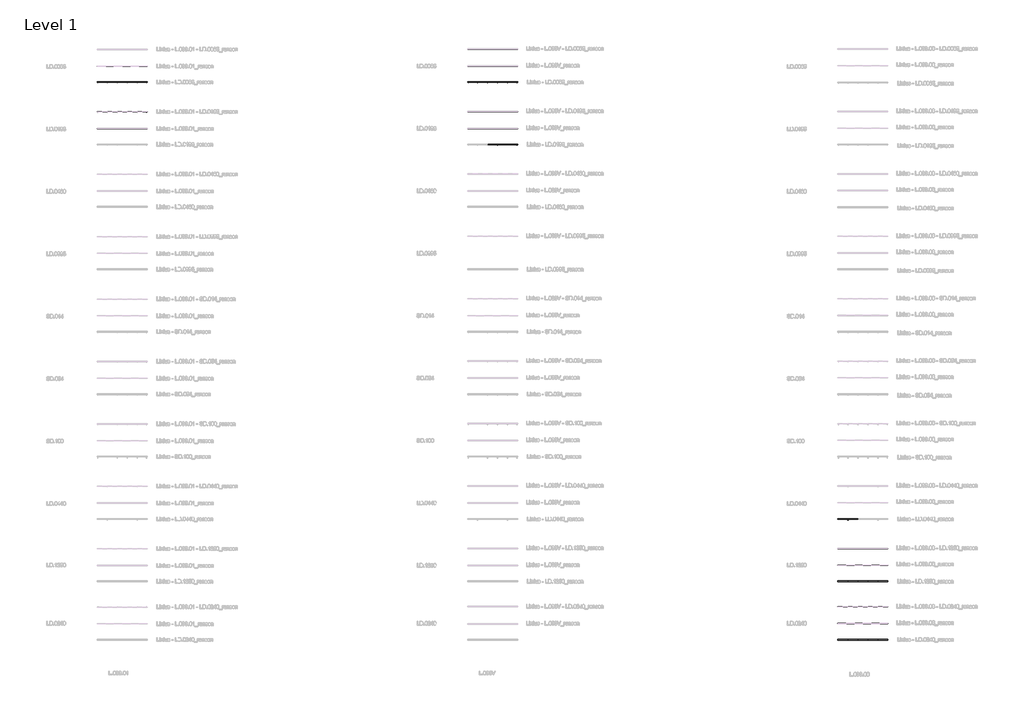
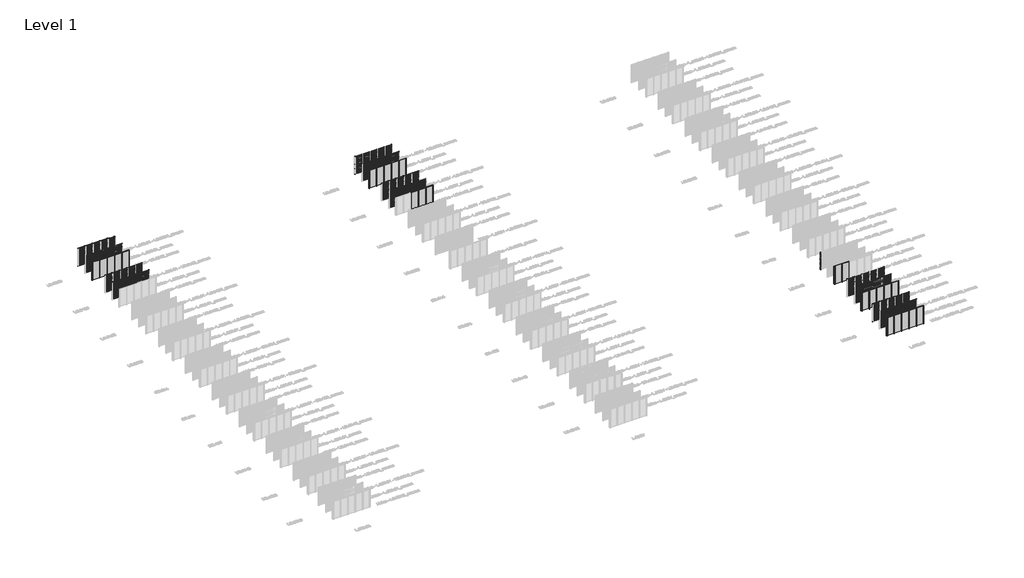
# One storey, part 4 of 507: 66 members, 62 plates.
"""IFC4 building model written with IfcOpenShell, lengths in millimetres."""

from ifc_helpers import new_model, si_unit, origin, origin_with_axes, place, context, project, spatial, polyline, outline, extrude, transform, mapped, element, save
from components import rectangular_mullion_42be434b, rectangular_mullion_e1f482b2, rectangular_mullion_2c867e25, rectangular_mullion_7803f5c4, rectangular_mullion_82152e2f, rectangular_mullion_ffdfeaf4, rectangular_mullion_e0a14876, rectangular_mullion_146f339b, rectangular_mullion_aa1047c5, rectangular_mullion_5b30f3fd, rectangular_mullion_d2d38772, rectangular_mullion_efb80f74, rectangular_mullion_aaa1fb1b, rectangular_mullion_ea9d012c, empty_system_panel_empty_aabbdda4

model = new_model("IFC4")

# Units and contexts
model_context = context("Model", 3, world=origin())
ifc_project = project(units=[si_unit("LENGTHUNIT", "METRE", prefix="MILLI")], contexts=[model_context])

# Site, building, storey
site = spatial("IfcSite", under=ifc_project)
building = spatial("IfcBuilding", under=site)
storey = spatial("IfcBuildingStorey", under=building, Name="Level 1", Elevation=0.0)

# Members
placement = place(None, origin())
rectangular_mullion_shape = rectangular_mullion_42be434b(model_context)
element("IfcMember", 1, ObjectType="Rectangular Mullion : LD.0065_renson", at=placement, inside=storey, context=model_context, shape_type="MappedRepresentation", body=[
    mapped(rectangular_mullion_shape, transform((49766.6208095, 73981.0540136, 0.0), x_axis=(-1.0, 0.0, 0.0), y_axis=(0.0, 1.0, 0.0), z_axis=(0.0, 0.0, -1.0))),
])
element("IfcMember", 2, ObjectType="Rectangular Mullion : LD.0065_renson", at=placement, inside=storey, context=model_context, shape_type="MappedRepresentation", body=[
    mapped(rectangular_mullion_shape, transform((48566.6208096, 73981.0540136, 0.0), x_axis=(-1.0, 0.0, 0.0), y_axis=(0.0, 1.0, 0.0), z_axis=(0.0, 0.0, -1.0))),
])
element("IfcMember", 3, ObjectType="Rectangular Mullion : LD.0065_renson", at=placement, inside=storey, context=model_context, shape_type="MappedRepresentation", body=[
    mapped(rectangular_mullion_shape, transform((47366.6208097, 73981.0540136, 0.0), x_axis=(-1.0, 0.0, 0.0), y_axis=(0.0, 1.0, 0.0), z_axis=(0.0, 0.0, -1.0))),
])
element("IfcMember", 4, ObjectType="Rectangular Mullion : LD.0065_renson", at=placement, inside=storey, context=model_context, shape_type="MappedRepresentation", body=[
    mapped(rectangular_mullion_shape, transform((46166.6208099, 73981.0540136, 0.0), x_axis=(-1.0, 0.0, 0.0), y_axis=(0.0, 1.0, 0.0), z_axis=(0.0, 0.0, -1.0))),
])
element("IfcMember", 5, ObjectType="Rectangular Mullion : LD.0065_renson", at=placement, inside=storey, context=model_context, shape_type="MappedRepresentation", body=[
    mapped(rectangular_mullion_shape, transform((49766.6208095, 69981.0540136, 0.0), x_axis=(-1.0, 0.0, 0.0), y_axis=(0.0, 1.0, 0.0), z_axis=(0.0, 0.0, -1.0))),
])
element("IfcMember", 6, ObjectType="Rectangular Mullion : LD.0065_renson", at=placement, inside=storey, context=model_context, shape_type="MappedRepresentation", body=[
    mapped(rectangular_mullion_shape, transform((48566.6208096, 69981.0540136, 0.0), x_axis=(-1.0, 0.0, 0.0), y_axis=(0.0, 1.0, 0.0), z_axis=(0.0, 0.0, -1.0))),
])
element("IfcMember", 7, ObjectType="Rectangular Mullion : LD.0065_renson", at=placement, inside=storey, context=model_context, shape_type="MappedRepresentation", body=[
    mapped(rectangular_mullion_shape, transform((47366.6208097, 69981.0540136, 0.0), x_axis=(-1.0, 0.0, 0.0), y_axis=(0.0, 1.0, 0.0), z_axis=(0.0, 0.0, -1.0))),
])
element("IfcMember", 8, ObjectType="Rectangular Mullion : LD.0065_renson", at=placement, inside=storey, context=model_context, shape_type="MappedRepresentation", body=[
    mapped(rectangular_mullion_shape, transform((46166.6208099, 69981.0540136, 0.0), x_axis=(-1.0, 0.0, 0.0), y_axis=(0.0, 1.0, 0.0), z_axis=(0.0, 0.0, -1.0))),
])
element("IfcMember", 9, ObjectType="Rectangular Mullion : LD.0065_renson", at=placement, inside=storey, context=model_context, shape_type="MappedRepresentation", body=[
    mapped(rectangular_mullion_shape, transform((93066.6208096, 69981.0540136, 0.0), x_axis=(-1.0, 0.0, 0.0), y_axis=(0.0, 1.0, 0.0), z_axis=(0.0, 0.0, -1.0))),
])
element("IfcMember", 10, ObjectType="Rectangular Mullion : LD.0065_renson", at=placement, inside=storey, context=model_context, shape_type="MappedRepresentation", body=[
    mapped(rectangular_mullion_shape, transform((91866.6208097, 69981.0540136, 0.0), x_axis=(-1.0, 0.0, 0.0), y_axis=(0.0, 1.0, 0.0), z_axis=(0.0, 0.0, -1.0))),
])
element("IfcMember", 11, ObjectType="Rectangular Mullion : LD.0065_renson", at=placement, inside=storey, context=model_context, shape_type="MappedRepresentation", body=[
    mapped(rectangular_mullion_shape, transform((90666.6208099, 69981.0540136, 0.0), x_axis=(-1.0, 0.0, 0.0), y_axis=(0.0, 1.0, 0.0), z_axis=(0.0, 0.0, -1.0))),
])
element("IfcMember", 12, ObjectType="Rectangular Mullion : LD.0065_renson", at=placement, inside=storey, context=model_context, shape_type="MappedRepresentation", body=[
    mapped(rectangular_mullion_shape, transform((94266.6208095, 69981.0540136, 0.0), x_axis=(-1.0, 0.0, 0.0), y_axis=(0.0, 1.0, 0.0), z_axis=(0.0, 0.0, -1.0))),
])
element("IfcMember", 13, ObjectType="Rectangular Mullion : LD.0065_renson", at=placement, inside=storey, context=model_context, shape_type="MappedRepresentation", body=[
    mapped(rectangular_mullion_shape, transform((94266.6208095, 74025.0540136, 0.0), x_axis=(-1.0, 0.0, 0.0), y_axis=(0.0, 1.0, 0.0), z_axis=(0.0, 0.0, -1.0))),
])
element("IfcMember", 14, ObjectType="Rectangular Mullion : LD.0065_renson", at=placement, inside=storey, context=model_context, shape_type="MappedRepresentation", body=[
    mapped(rectangular_mullion_shape, transform((93066.6208096, 74025.0540136, 0.0), x_axis=(-1.0, 0.0, 0.0), y_axis=(0.0, 1.0, 0.0), z_axis=(0.0, 0.0, -1.0))),
])
element("IfcMember", 15, ObjectType="Rectangular Mullion : LD.0065_renson", at=placement, inside=storey, context=model_context, shape_type="MappedRepresentation", body=[
    mapped(rectangular_mullion_shape, transform((91866.6208097, 74025.0540136, 0.0), x_axis=(-1.0, 0.0, 0.0), y_axis=(0.0, 1.0, 0.0), z_axis=(0.0, 0.0, -1.0))),
])
element("IfcMember", 16, ObjectType="Rectangular Mullion : LD.0065_renson", at=placement, inside=storey, context=model_context, shape_type="MappedRepresentation", body=[
    mapped(rectangular_mullion_shape, transform((90666.6208099, 74025.0540136, 0.0), x_axis=(-1.0, 0.0, 0.0), y_axis=(0.0, 1.0, 0.0), z_axis=(0.0, 0.0, -1.0))),
])
rectangular_mullion_2_shape = rectangular_mullion_e1f482b2(model_context)
element("IfcMember", 17, ObjectType="Rectangular Mullion : LD.0195_renson", at=placement, inside=storey, context=model_context, shape_type="MappedRepresentation", body=[
    mapped(rectangular_mullion_2_shape, transform((49766.6208095, 66481.0540136, 0.0), x_axis=(-1.0, 0.0, 0.0), y_axis=(0.0, 1.0, 0.0), z_axis=(0.0, 0.0, -1.0))),
])
element("IfcMember", 18, ObjectType="Rectangular Mullion : LD.0195_renson", at=placement, inside=storey, context=model_context, shape_type="MappedRepresentation", body=[
    mapped(rectangular_mullion_2_shape, transform((48566.6208096, 66481.0540136, 0.0), x_axis=(-1.0, 0.0, 0.0), y_axis=(0.0, 1.0, 0.0), z_axis=(0.0, 0.0, -1.0))),
])
element("IfcMember", 19, ObjectType="Rectangular Mullion : LD.0195_renson", at=placement, inside=storey, context=model_context, shape_type="MappedRepresentation", body=[
    mapped(rectangular_mullion_2_shape, transform((47366.6208097, 66481.0540136, 0.0), x_axis=(-1.0, 0.0, 0.0), y_axis=(0.0, 1.0, 0.0), z_axis=(0.0, 0.0, -1.0))),
])
element("IfcMember", 20, ObjectType="Rectangular Mullion : LD.0195_renson", at=placement, inside=storey, context=model_context, shape_type="MappedRepresentation", body=[
    mapped(rectangular_mullion_2_shape, transform((46166.6208099, 66481.0540136, 0.0), x_axis=(-1.0, 0.0, 0.0), y_axis=(0.0, 1.0, 0.0), z_axis=(0.0, 0.0, -1.0))),
])
element("IfcMember", 21, ObjectType="Rectangular Mullion : LD.0195_renson", at=placement, inside=storey, context=model_context, shape_type="MappedRepresentation", body=[
    mapped(rectangular_mullion_2_shape, transform((93066.6208096, 62481.0540136, 0.0), x_axis=(-1.0, 0.0, 0.0), y_axis=(0.0, 1.0, 0.0), z_axis=(0.0, 0.0, -1.0))),
])
element("IfcMember", 22, ObjectType="Rectangular Mullion : LD.0195_renson", at=placement, inside=storey, context=model_context, shape_type="MappedRepresentation", body=[
    mapped(rectangular_mullion_2_shape, transform((94266.6208095, 62481.0540136, 0.0), x_axis=(-1.0, 0.0, 0.0), y_axis=(0.0, 1.0, 0.0), z_axis=(0.0, 0.0, -1.0))),
])
element("IfcMember", 23, ObjectType="Rectangular Mullion : LD.0195_renson", at=placement, inside=storey, context=model_context, shape_type="MappedRepresentation", body=[
    mapped(rectangular_mullion_2_shape, transform((94266.6208095, 66525.0540136, 0.0), x_axis=(-1.0, 0.0, 0.0), y_axis=(0.0, 1.0, 0.0), z_axis=(0.0, 0.0, -1.0))),
])
element("IfcMember", 24, ObjectType="Rectangular Mullion : LD.0195_renson", at=placement, inside=storey, context=model_context, shape_type="MappedRepresentation", body=[
    mapped(rectangular_mullion_2_shape, transform((93066.6208096, 66525.0540136, 0.0), x_axis=(-1.0, 0.0, 0.0), y_axis=(0.0, 1.0, 0.0), z_axis=(0.0, 0.0, -1.0))),
])
element("IfcMember", 25, ObjectType="Rectangular Mullion : LD.0195_renson", at=placement, inside=storey, context=model_context, shape_type="MappedRepresentation", body=[
    mapped(rectangular_mullion_2_shape, transform((91866.6208097, 66525.0540136, 0.0), x_axis=(-1.0, 0.0, 0.0), y_axis=(0.0, 1.0, 0.0), z_axis=(0.0, 0.0, -1.0))),
])
element("IfcMember", 26, ObjectType="Rectangular Mullion : LD.0195_renson", at=placement, inside=storey, context=model_context, shape_type="MappedRepresentation", body=[
    mapped(rectangular_mullion_2_shape, transform((90666.6208099, 66525.0540136, 0.0), x_axis=(-1.0, 0.0, 0.0), y_axis=(0.0, 1.0, 0.0), z_axis=(0.0, 0.0, -1.0))),
])
rectangular_mullion_3_shape = rectangular_mullion_2c867e25(model_context)
element("IfcMember", 27, ObjectType="Rectangular Mullion : LD.0440_renson", at=placement, inside=storey, context=model_context, shape_type="MappedRepresentation", body=[
    mapped(rectangular_mullion_3_shape, transform((135166.6208099, 17481.0540136, 0.0), x_axis=(-1.0, 0.0, 0.0), y_axis=(0.0, 1.0, 0.0), z_axis=(0.0, 0.0, -1.0))),
])
rectangular_mullion_4_shape = rectangular_mullion_7803f5c4(model_context)
element("IfcMember", 28, ObjectType="Rectangular Mullion : LD.1250_renson", at=placement, inside=storey, context=model_context, shape_type="MappedRepresentation", body=[
    mapped(rectangular_mullion_4_shape, transform((136366.6208097, 9981.0540136, 0.0), x_axis=(-1.0, 0.0, 0.0), y_axis=(0.0, 1.0, 0.0), z_axis=(0.0, 0.0, -1.0))),
])
element("IfcMember", 29, ObjectType="Rectangular Mullion : LD.1250_renson", at=placement, inside=storey, context=model_context, shape_type="MappedRepresentation", body=[
    mapped(rectangular_mullion_4_shape, transform((135166.6208099, 9981.0540136, 0.0), x_axis=(-1.0, 0.0, 0.0), y_axis=(0.0, 1.0, 0.0), z_axis=(0.0, 0.0, -1.0))),
])
element("IfcMember", 30, ObjectType="Rectangular Mullion : LD.1250_renson", at=placement, inside=storey, context=model_context, shape_type="MappedRepresentation", body=[
    mapped(rectangular_mullion_4_shape, transform((137566.6208096, 9981.0540136, 0.0), x_axis=(-1.0, 0.0, 0.0), y_axis=(0.0, 1.0, 0.0), z_axis=(0.0, 0.0, -1.0))),
])
element("IfcMember", 31, ObjectType="Rectangular Mullion : LD.1250_renson", at=placement, inside=storey, context=model_context, shape_type="MappedRepresentation", body=[
    mapped(rectangular_mullion_4_shape, transform((138766.6208095, 9981.0540136, 0.0), x_axis=(-1.0, 0.0, 0.0), y_axis=(0.0, 1.0, 0.0), z_axis=(0.0, 0.0, -1.0))),
])
element("IfcMember", 32, ObjectType="Rectangular Mullion : LD.1250_renson", at=placement, inside=storey, context=model_context, shape_type="MappedRepresentation", body=[
    mapped(rectangular_mullion_4_shape, transform((138766.6208095, 14024.0540136, 0.0), x_axis=(-1.0, 0.0, 0.0), y_axis=(0.0, 1.0, 0.0), z_axis=(0.0, 0.0, -1.0))),
])
element("IfcMember", 33, ObjectType="Rectangular Mullion : LD.1250_renson", at=placement, inside=storey, context=model_context, shape_type="MappedRepresentation", body=[
    mapped(rectangular_mullion_4_shape, transform((137566.6208096, 14024.0540136, 0.0), x_axis=(-1.0, 0.0, 0.0), y_axis=(0.0, 1.0, 0.0), z_axis=(0.0, 0.0, -1.0))),
])
element("IfcMember", 34, ObjectType="Rectangular Mullion : LD.1250_renson", at=placement, inside=storey, context=model_context, shape_type="MappedRepresentation", body=[
    mapped(rectangular_mullion_4_shape, transform((136366.6208097, 14024.0540136, 0.0), x_axis=(-1.0, 0.0, 0.0), y_axis=(0.0, 1.0, 0.0), z_axis=(0.0, 0.0, -1.0))),
])
element("IfcMember", 35, ObjectType="Rectangular Mullion : LD.1250_renson", at=placement, inside=storey, context=model_context, shape_type="MappedRepresentation", body=[
    mapped(rectangular_mullion_4_shape, transform((135166.6208099, 14024.0540136, 0.0), x_axis=(-1.0, 0.0, 0.0), y_axis=(0.0, 1.0, 0.0), z_axis=(0.0, 0.0, -1.0))),
])
rectangular_mullion_5_shape = rectangular_mullion_82152e2f(model_context)
element("IfcMember", 36, ObjectType="Rectangular Mullion : LD.0240_renson", at=placement, inside=storey, context=model_context, shape_type="MappedRepresentation", body=[
    mapped(rectangular_mullion_5_shape, transform((136366.6208097, 2985.0270068, 0.0), x_axis=(-1.0, 0.0, 0.0), y_axis=(0.0, 1.0, 0.0), z_axis=(0.0, 0.0, -1.0))),
])
element("IfcMember", 37, ObjectType="Rectangular Mullion : LD.0240_renson", at=placement, inside=storey, context=model_context, shape_type="MappedRepresentation", body=[
    mapped(rectangular_mullion_5_shape, transform((135166.6208099, 2985.0270068, 0.0), x_axis=(-1.0, 0.0, 0.0), y_axis=(0.0, 1.0, 0.0), z_axis=(0.0, 0.0, -1.0))),
])
element("IfcMember", 38, ObjectType="Rectangular Mullion : LD.0240_renson", at=placement, inside=storey, context=model_context, shape_type="MappedRepresentation", body=[
    mapped(rectangular_mullion_5_shape, transform((137566.6208096, 2985.0270068, 0.0), x_axis=(-1.0, 0.0, 0.0), y_axis=(0.0, 1.0, 0.0), z_axis=(0.0, 0.0, -1.0))),
])
element("IfcMember", 39, ObjectType="Rectangular Mullion : LD.0240_renson", at=placement, inside=storey, context=model_context, shape_type="MappedRepresentation", body=[
    mapped(rectangular_mullion_5_shape, transform((138766.6208095, 2985.0270068, 0.0), x_axis=(-1.0, 0.0, 0.0), y_axis=(0.0, 1.0, 0.0), z_axis=(0.0, 0.0, -1.0))),
])
element("IfcMember", 40, ObjectType="Rectangular Mullion : LD.0240_renson", at=placement, inside=storey, context=model_context, shape_type="MappedRepresentation", body=[
    mapped(rectangular_mullion_5_shape, transform((138766.6208095, 7028.0270068, 0.0), x_axis=(-1.0, 0.0, 0.0), y_axis=(0.0, 1.0, 0.0), z_axis=(0.0, 0.0, -1.0))),
])
element("IfcMember", 41, ObjectType="Rectangular Mullion : LD.0240_renson", at=placement, inside=storey, context=model_context, shape_type="MappedRepresentation", body=[
    mapped(rectangular_mullion_5_shape, transform((137566.6208096, 7028.0270068, 0.0), x_axis=(-1.0, 0.0, 0.0), y_axis=(0.0, 1.0, 0.0), z_axis=(0.0, 0.0, -1.0))),
])
element("IfcMember", 42, ObjectType="Rectangular Mullion : LD.0240_renson", at=placement, inside=storey, context=model_context, shape_type="MappedRepresentation", body=[
    mapped(rectangular_mullion_5_shape, transform((136366.6208097, 7028.0270068, 0.0), x_axis=(-1.0, 0.0, 0.0), y_axis=(0.0, 1.0, 0.0), z_axis=(0.0, 0.0, -1.0))),
])
element("IfcMember", 43, ObjectType="Rectangular Mullion : LD.0240_renson", at=placement, inside=storey, context=model_context, shape_type="MappedRepresentation", body=[
    mapped(rectangular_mullion_5_shape, transform((135166.6208099, 7028.0270068, 0.0), x_axis=(-1.0, 0.0, 0.0), y_axis=(0.0, 1.0, 0.0), z_axis=(0.0, 0.0, -1.0))),
])
rectangular_mullion_6_shape = rectangular_mullion_ffdfeaf4(model_context)
element("IfcMember", 44, ObjectType="Rectangular Mullion : LD.0065 - left_renson", at=placement, inside=storey, context=model_context, shape_type="MappedRepresentation", body=[
    mapped(rectangular_mullion_6_shape, transform((44966.6208097, 73981.0540136, 0.0), x_axis=(-1.0, 0.0, 0.0), y_axis=(0.0, 1.0, 0.0), z_axis=(0.0, 0.0, -1.0))),
])
element("IfcMember", 45, ObjectType="Rectangular Mullion : LD.0065 - left_renson", at=placement, inside=storey, context=model_context, shape_type="MappedRepresentation", body=[
    mapped(rectangular_mullion_6_shape, transform((44966.6208097, 69981.0540136, 0.0), x_axis=(-1.0, 0.0, 0.0), y_axis=(0.0, 1.0, 0.0), z_axis=(0.0, 0.0, -1.0))),
])
element("IfcMember", 46, ObjectType="Rectangular Mullion : LD.0065 - left_renson", at=placement, inside=storey, context=model_context, shape_type="MappedRepresentation", body=[
    mapped(rectangular_mullion_6_shape, transform((89466.6208097, 69981.0540136, 0.0), x_axis=(-1.0, 0.0, 0.0), y_axis=(0.0, 1.0, 0.0), z_axis=(0.0, 0.0, -1.0))),
])
element("IfcMember", 47, ObjectType="Rectangular Mullion : LD.0065 - left_renson", at=placement, inside=storey, context=model_context, shape_type="MappedRepresentation", body=[
    mapped(rectangular_mullion_6_shape, transform((89466.6208097, 74025.0540136, 0.0), x_axis=(-1.0, 0.0, 0.0), y_axis=(0.0, 1.0, 0.0), z_axis=(0.0, 0.0, -1.0))),
])
rectangular_mullion_7_shape = rectangular_mullion_e0a14876(model_context)
element("IfcMember", 48, ObjectType="Rectangular Mullion : LD.0065 - right_renson", at=placement, inside=storey, context=model_context, shape_type="MappedRepresentation", body=[
    mapped(rectangular_mullion_7_shape, transform((50966.6208097, 73981.0540136, 3000.0), x_axis=(1.0, 0.0, 0.0), y_axis=(0.0, 1.0, 0.0), z_axis=(0.0, 0.0, 1.0))),
])
element("IfcMember", 49, ObjectType="Rectangular Mullion : LD.0065 - right_renson", at=placement, inside=storey, context=model_context, shape_type="MappedRepresentation", body=[
    mapped(rectangular_mullion_7_shape, transform((50966.6208097, 69981.0540136, 3000.0), x_axis=(1.0, 0.0, 0.0), y_axis=(0.0, 1.0, 0.0), z_axis=(0.0, 0.0, 1.0))),
])
element("IfcMember", 50, ObjectType="Rectangular Mullion : LD.0065 - right_renson", at=placement, inside=storey, context=model_context, shape_type="MappedRepresentation", body=[
    mapped(rectangular_mullion_7_shape, transform((95466.6208097, 69981.0540136, 3000.0), x_axis=(1.0, 0.0, 0.0), y_axis=(0.0, 1.0, 0.0), z_axis=(0.0, 0.0, 1.0))),
])
element("IfcMember", 51, ObjectType="Rectangular Mullion : LD.0065 - right_renson", at=placement, inside=storey, context=model_context, shape_type="MappedRepresentation", body=[
    mapped(rectangular_mullion_7_shape, transform((95466.6208097, 74025.0540136, 3000.0), x_axis=(1.0, 0.0, 0.0), y_axis=(0.0, 1.0, 0.0), z_axis=(0.0, 0.0, 1.0))),
])
rectangular_mullion_8_shape = rectangular_mullion_146f339b(model_context)
element("IfcMember", 52, ObjectType="Rectangular Mullion : LD.0195 - left_renson", at=placement, inside=storey, context=model_context, shape_type="MappedRepresentation", body=[
    mapped(rectangular_mullion_8_shape, transform((44966.6208097, 66481.0540136, 0.0), x_axis=(-1.0, 0.0, 0.0), y_axis=(0.0, 1.0, 0.0), z_axis=(0.0, 0.0, -1.0))),
])
element("IfcMember", 53, ObjectType="Rectangular Mullion : LD.0195 - left_renson", at=placement, inside=storey, context=model_context, shape_type="MappedRepresentation", body=[
    mapped(rectangular_mullion_8_shape, transform((89466.6208097, 66525.0540136, 0.0), x_axis=(-1.0, 0.0, 0.0), y_axis=(0.0, 1.0, 0.0), z_axis=(0.0, 0.0, -1.0))),
])
rectangular_mullion_9_shape = rectangular_mullion_aa1047c5(model_context)
element("IfcMember", 54, ObjectType="Rectangular Mullion : LD.0195 - right_renson", at=placement, inside=storey, context=model_context, shape_type="MappedRepresentation", body=[
    mapped(rectangular_mullion_9_shape, transform((50966.6208097, 66481.0540136, 3000.0), x_axis=(1.0, 0.0, 0.0), y_axis=(0.0, 1.0, 0.0), z_axis=(0.0, 0.0, 1.0))),
])
element("IfcMember", 55, ObjectType="Rectangular Mullion : LD.0195 - right_renson", at=placement, inside=storey, context=model_context, shape_type="MappedRepresentation", body=[
    mapped(rectangular_mullion_9_shape, transform((95466.6208097, 62481.0540136, 3000.0), x_axis=(1.0, 0.0, 0.0), y_axis=(0.0, 1.0, 0.0), z_axis=(0.0, 0.0, 1.0))),
])
element("IfcMember", 56, ObjectType="Rectangular Mullion : LD.0195 - right_renson", at=placement, inside=storey, context=model_context, shape_type="MappedRepresentation", body=[
    mapped(rectangular_mullion_9_shape, transform((95466.6208097, 66525.0540136, 3000.0), x_axis=(1.0, 0.0, 0.0), y_axis=(0.0, 1.0, 0.0), z_axis=(0.0, 0.0, 1.0))),
])
rectangular_mullion_10_shape = rectangular_mullion_5b30f3fd(model_context)
element("IfcMember", 57, ObjectType="Rectangular Mullion : LD.0440 - left_renson", at=placement, inside=storey, context=model_context, shape_type="MappedRepresentation", body=[
    mapped(rectangular_mullion_10_shape, transform((133966.6208097, 17481.0540136, 0.0), x_axis=(-1.0, 0.0, 0.0), y_axis=(0.0, 1.0, 0.0), z_axis=(0.0, 0.0, -1.0))),
])
element("IfcMember", 58, ObjectType="Rectangular Mullion : LD.0440 - left_renson", at=placement, inside=storey, context=model_context, shape_type="MappedRepresentation", body=[
    mapped(rectangular_mullion_10_shape, transform((133966.6208097, 21524.0540136, 0.0), x_axis=(-1.0, 0.0, 0.0), y_axis=(0.0, 1.0, 0.0), z_axis=(0.0, 0.0, -1.0))),
])
rectangular_mullion_11_shape = rectangular_mullion_d2d38772(model_context)
element("IfcMember", 59, ObjectType="Rectangular Mullion : LD.1250 - left_renson", at=placement, inside=storey, context=model_context, shape_type="MappedRepresentation", body=[
    mapped(rectangular_mullion_11_shape, transform((133966.6208097, 9981.0540136, 0.0), x_axis=(-1.0, 0.0, 0.0), y_axis=(0.0, 1.0, 0.0), z_axis=(0.0, 0.0, -1.0))),
])
element("IfcMember", 60, ObjectType="Rectangular Mullion : LD.1250 - left_renson", at=placement, inside=storey, context=model_context, shape_type="MappedRepresentation", body=[
    mapped(rectangular_mullion_11_shape, transform((133966.6208097, 14024.0540136, 0.0), x_axis=(-1.0, 0.0, 0.0), y_axis=(0.0, 1.0, 0.0), z_axis=(0.0, 0.0, -1.0))),
])
rectangular_mullion_12_shape = rectangular_mullion_efb80f74(model_context)
element("IfcMember", 61, ObjectType="Rectangular Mullion : LD.1250 - right_renson", at=placement, inside=storey, context=model_context, shape_type="MappedRepresentation", body=[
    mapped(rectangular_mullion_12_shape, transform((139966.6208097, 9981.0540136, 3000.0), x_axis=(1.0, 0.0, 0.0), y_axis=(0.0, 1.0, 0.0), z_axis=(0.0, 0.0, 1.0))),
])
element("IfcMember", 62, ObjectType="Rectangular Mullion : LD.1250 - right_renson", at=placement, inside=storey, context=model_context, shape_type="MappedRepresentation", body=[
    mapped(rectangular_mullion_12_shape, transform((139966.6208097, 14024.0540136, 3000.0), x_axis=(1.0, 0.0, 0.0), y_axis=(0.0, 1.0, 0.0), z_axis=(0.0, 0.0, 1.0))),
])
rectangular_mullion_13_shape = rectangular_mullion_aaa1fb1b(model_context)
element("IfcMember", 63, ObjectType="Rectangular Mullion : LD.0240 - left_renson", at=placement, inside=storey, context=model_context, shape_type="MappedRepresentation", body=[
    mapped(rectangular_mullion_13_shape, transform((133966.6208097, 2985.0270068, 0.0), x_axis=(-1.0, 0.0, 0.0), y_axis=(0.0, 1.0, 0.0), z_axis=(0.0, 0.0, -1.0))),
])
element("IfcMember", 64, ObjectType="Rectangular Mullion : LD.0240 - left_renson", at=placement, inside=storey, context=model_context, shape_type="MappedRepresentation", body=[
    mapped(rectangular_mullion_13_shape, transform((133966.6208097, 7028.0270068, 0.0), x_axis=(-1.0, 0.0, 0.0), y_axis=(0.0, 1.0, 0.0), z_axis=(0.0, 0.0, -1.0))),
])
rectangular_mullion_14_shape = rectangular_mullion_ea9d012c(model_context)
element("IfcMember", 65, ObjectType="Rectangular Mullion : LD.0240 - right_renson", at=placement, inside=storey, context=model_context, shape_type="MappedRepresentation", body=[
    mapped(rectangular_mullion_14_shape, transform((139966.6208097, 2985.0270068, 3000.0), x_axis=(1.0, 0.0, 0.0), y_axis=(0.0, 1.0, 0.0), z_axis=(0.0, 0.0, 1.0))),
])
element("IfcMember", 66, ObjectType="Rectangular Mullion : LD.0240 - right_renson", at=placement, inside=storey, context=model_context, shape_type="MappedRepresentation", body=[
    mapped(rectangular_mullion_14_shape, transform((139966.6208097, 7028.0270068, 3000.0), x_axis=(1.0, 0.0, 0.0), y_axis=(0.0, 1.0, 0.0), z_axis=(0.0, 0.0, 1.0))),
])

# Plates
element("IfcPlate", 67, ObjectType="Linius - L.033.01_renson", at=placement, inside=storey, context=model_context, shape_type="SweptSolid", body=[
    extrude(outline(polyline([(44966.6208097, 73982.0540136), (46166.6208099, 73982.0540136), (46166.6208099, 73980.0540136), (44966.6208097, 73980.0540136), (44966.6208097, 73982.0540136)])), origin_with_axes(), (0.0, 0.0, 1.0), 3000.0),
])
element("IfcPlate", 68, ObjectType="Linius - L.033.01_renson", at=placement, inside=storey, context=model_context, shape_type="SweptSolid", body=[
    extrude(outline(polyline([(46166.6208099, 73982.0540136), (47366.6208097, 73982.0540136), (47366.6208097, 73980.0540136), (46166.6208099, 73980.0540136), (46166.6208099, 73982.0540136)])), origin_with_axes(), (0.0, 0.0, 1.0), 3000.0),
])
element("IfcPlate", 69, ObjectType="Linius - L.033.01_renson", at=placement, inside=storey, context=model_context, shape_type="SweptSolid", body=[
    extrude(outline(polyline([(47366.6208097, 73982.0540136), (48566.6208096, 73982.0540136), (48566.6208096, 73980.0540136), (47366.6208097, 73980.0540136), (47366.6208097, 73982.0540136)])), origin_with_axes(), (0.0, 0.0, 1.0), 3000.0),
])
element("IfcPlate", 70, ObjectType="Linius - L.033.01_renson", at=placement, inside=storey, context=model_context, shape_type="SweptSolid", body=[
    extrude(outline(polyline([(48566.6208096, 73982.0540136), (49766.6208095, 73982.0540136), (49766.6208095, 73980.0540136), (48566.6208096, 73980.0540136), (48566.6208096, 73982.0540136)])), origin_with_axes(), (0.0, 0.0, 1.0), 3000.0),
])
element("IfcPlate", 71, ObjectType="Linius - L.033.01_renson", at=placement, inside=storey, context=model_context, shape_type="SweptSolid", body=[
    extrude(outline(polyline([(44966.6208097, 71982.0540136), (50966.6208097, 71982.0540136), (50966.6208097, 71980.0540136), (44966.6208097, 71980.0540136), (44966.6208097, 71982.0540136)])), origin_with_axes(), (0.0, 0.0, 1.0), 3000.0),
])
element("IfcPlate", 72, ObjectType="Linius - L.033.01_renson", at=placement, inside=storey, context=model_context, shape_type="SweptSolid", body=[
    extrude(outline(polyline([(44966.6208097, 66482.0540136), (46166.6208099, 66482.0540136), (46166.6208099, 66480.0540136), (44966.6208097, 66480.0540136), (44966.6208097, 66482.0540136)])), origin_with_axes(), (0.0, 0.0, 1.0), 3000.0),
])
element("IfcPlate", 73, ObjectType="Linius - L.033.01_renson", at=placement, inside=storey, context=model_context, shape_type="SweptSolid", body=[
    extrude(outline(polyline([(46166.6208099, 66482.0540136), (47366.6208097, 66482.0540136), (47366.6208097, 66480.0540136), (46166.6208099, 66480.0540136), (46166.6208099, 66482.0540136)])), origin_with_axes(), (0.0, 0.0, 1.0), 3000.0),
])
element("IfcPlate", 74, ObjectType="Linius - L.033.01_renson", at=placement, inside=storey, context=model_context, shape_type="SweptSolid", body=[
    extrude(outline(polyline([(47366.6208097, 66482.0540136), (48566.6208096, 66482.0540136), (48566.6208096, 66480.0540136), (47366.6208097, 66480.0540136), (47366.6208097, 66482.0540136)])), origin_with_axes(), (0.0, 0.0, 1.0), 3000.0),
])
element("IfcPlate", 75, ObjectType="Linius - L.033.01_renson", at=placement, inside=storey, context=model_context, shape_type="SweptSolid", body=[
    extrude(outline(polyline([(48566.6208096, 66482.0540136), (49766.6208095, 66482.0540136), (49766.6208095, 66480.0540136), (48566.6208096, 66480.0540136), (48566.6208096, 66482.0540136)])), origin_with_axes(), (0.0, 0.0, 1.0), 3000.0),
])
element("IfcPlate", 76, ObjectType="Linius - L.033.01_renson", at=placement, inside=storey, context=model_context, shape_type="SweptSolid", body=[
    extrude(outline(polyline([(44966.6208097, 64482.0540136), (50966.6208097, 64482.0540136), (50966.6208097, 64480.0540136), (44966.6208097, 64480.0540136), (44966.6208097, 64482.0540136)])), origin_with_axes(), (0.0, 0.0, 1.0), 3000.0),
])
element("IfcPlate", 77, ObjectType="Linius - L.033.01_renson", at=placement, inside=storey, context=model_context, shape_type="SweptSolid", body=[
    extrude(outline(polyline([(49766.6208095, 73982.0540136), (50966.6208097, 73982.0540136), (50966.6208097, 73980.0540136), (49766.6208095, 73980.0540136), (49766.6208095, 73982.0540136)])), origin_with_axes(), (0.0, 0.0, 1.0), 3000.0),
])
element("IfcPlate", 78, ObjectType="Linius - L.033.01_renson", at=placement, inside=storey, context=model_context, shape_type="SweptSolid", body=[
    extrude(outline(polyline([(49766.6208095, 66482.0540136), (50966.6208097, 66482.0540136), (50966.6208097, 66480.0540136), (49766.6208095, 66480.0540136), (49766.6208095, 66482.0540136)])), origin_with_axes(), (0.0, 0.0, 1.0), 3000.0),
])
element("IfcPlate", 79, ObjectType="Linius - L.033.08_renson", at=placement, inside=storey, context=model_context, shape_type="SweptSolid", body=[
    extrude(outline(polyline([(133966.6208097, 4988.0270068), (139966.6208097, 4988.0270068), (139966.6208097, 4986.0270068), (133966.6208097, 4986.0270068), (133966.6208097, 4988.0270068)])), origin_with_axes(), (0.0, 0.0, 1.0), 3000.0),
])
element("IfcPlate", 80, ObjectType="Linius - L.033V_renson", at=placement, inside=storey, context=model_context, shape_type="SweptSolid", body=[
    extrude(outline(polyline([(89466.6208097, 74026.0540136), (90666.6208099, 74026.0540136), (90666.6208099, 74024.0540136), (89466.6208097, 74024.0540136), (89466.6208097, 74026.0540136)])), origin_with_axes(), (0.0, 0.0, 1.0), 3000.0),
])
element("IfcPlate", 81, ObjectType="Linius - L.033V_renson", at=placement, inside=storey, context=model_context, shape_type="SweptSolid", body=[
    extrude(outline(polyline([(90666.6208099, 74026.0540136), (91866.6208097, 74026.0540136), (91866.6208097, 74024.0540136), (90666.6208099, 74024.0540136), (90666.6208099, 74026.0540136)])), origin_with_axes(), (0.0, 0.0, 1.0), 3000.0),
])
element("IfcPlate", 82, ObjectType="Linius - L.033V_renson", at=placement, inside=storey, context=model_context, shape_type="SweptSolid", body=[
    extrude(outline(polyline([(91866.6208097, 74026.0540136), (93066.6208096, 74026.0540136), (93066.6208096, 74024.0540136), (91866.6208097, 74024.0540136), (91866.6208097, 74026.0540136)])), origin_with_axes(), (0.0, 0.0, 1.0), 3000.0),
])
element("IfcPlate", 83, ObjectType="Linius - L.033V_renson", at=placement, inside=storey, context=model_context, shape_type="SweptSolid", body=[
    extrude(outline(polyline([(93066.6208096, 74026.0540136), (94266.6208095, 74026.0540136), (94266.6208095, 74024.0540136), (93066.6208096, 74024.0540136), (93066.6208096, 74026.0540136)])), origin_with_axes(), (0.0, 0.0, 1.0), 3000.0),
])
element("IfcPlate", 84, ObjectType="Linius - L.033V_renson", at=placement, inside=storey, context=model_context, shape_type="SweptSolid", body=[
    extrude(outline(polyline([(89466.6208097, 66526.0540136), (90666.6208099, 66526.0540136), (90666.6208099, 66524.0540136), (89466.6208097, 66524.0540136), (89466.6208097, 66526.0540136)])), origin_with_axes(), (0.0, 0.0, 1.0), 3000.0),
])
element("IfcPlate", 85, ObjectType="Linius - L.033V_renson", at=placement, inside=storey, context=model_context, shape_type="SweptSolid", body=[
    extrude(outline(polyline([(90666.6208099, 66526.0540136), (91866.6208097, 66526.0540136), (91866.6208097, 66524.0540136), (90666.6208099, 66524.0540136), (90666.6208099, 66526.0540136)])), origin_with_axes(), (0.0, 0.0, 1.0), 3000.0),
])
element("IfcPlate", 86, ObjectType="Linius - L.033V_renson", at=placement, inside=storey, context=model_context, shape_type="SweptSolid", body=[
    extrude(outline(polyline([(91866.6208097, 66526.0540136), (93066.6208096, 66526.0540136), (93066.6208096, 66524.0540136), (91866.6208097, 66524.0540136), (91866.6208097, 66526.0540136)])), origin_with_axes(), (0.0, 0.0, 1.0), 3000.0),
])
element("IfcPlate", 87, ObjectType="Linius - L.033V_renson", at=placement, inside=storey, context=model_context, shape_type="SweptSolid", body=[
    extrude(outline(polyline([(93066.6208096, 66526.0540136), (94266.6208095, 66526.0540136), (94266.6208095, 66524.0540136), (93066.6208096, 66524.0540136), (93066.6208096, 66526.0540136)])), origin_with_axes(), (0.0, 0.0, 1.0), 3000.0),
])
element("IfcPlate", 88, ObjectType="Linius - L.033V_renson", at=placement, inside=storey, context=model_context, shape_type="SweptSolid", body=[
    extrude(outline(polyline([(94266.6208095, 74026.0540136), (95466.6208097, 74026.0540136), (95466.6208097, 74024.0540136), (94266.6208095, 74024.0540136), (94266.6208095, 74026.0540136)])), origin_with_axes(), (0.0, 0.0, 1.0), 3000.0),
])
element("IfcPlate", 89, ObjectType="Linius - L.033V_renson", at=placement, inside=storey, context=model_context, shape_type="SweptSolid", body=[
    extrude(outline(polyline([(94266.6208095, 66526.0540136), (95466.6208097, 66526.0540136), (95466.6208097, 66524.0540136), (94266.6208095, 66524.0540136), (94266.6208095, 66526.0540136)])), origin_with_axes(), (0.0, 0.0, 1.0), 3000.0),
])
element("IfcPlate", 90, ObjectType="Linius - L.033V_renson", at=placement, inside=storey, context=model_context, shape_type="SweptSolid", body=[
    extrude(outline(polyline([(89466.6208097, 64483.0540136), (95466.6208097, 64483.0540136), (95466.6208097, 64481.0540136), (89466.6208097, 64481.0540136), (89466.6208097, 64483.0540136)])), origin_with_axes(), (0.0, 0.0, 1.0), 3000.0),
])
element("IfcPlate", 91, ObjectType="Linius - L.033V_renson", at=placement, inside=storey, context=model_context, shape_type="SweptSolid", body=[
    extrude(outline(polyline([(89466.6208097, 71983.0540136), (95466.6208097, 71983.0540136), (95466.6208097, 71981.0540136), (89466.6208097, 71981.0540136), (89466.6208097, 71983.0540136)])), origin_with_axes(), (0.0, 0.0, 1.0), 3000.0),
])
element("IfcPlate", 92, ObjectType="Linius - L.033.08_renson", at=placement, inside=storey, context=model_context, shape_type="SweptSolid", body=[
    extrude(outline(polyline([(133966.6208097, 14025.0540136), (135166.6208099, 14025.0540136), (135166.6208099, 14023.0540136), (133966.6208097, 14023.0540136), (133966.6208097, 14025.0540136)])), origin_with_axes(), (0.0, 0.0, 1.0), 3000.0),
])
element("IfcPlate", 93, ObjectType="Linius - L.033.08_renson", at=placement, inside=storey, context=model_context, shape_type="SweptSolid", body=[
    extrude(outline(polyline([(135166.6208099, 14025.0540136), (136366.6208097, 14025.0540136), (136366.6208097, 14023.0540136), (135166.6208099, 14023.0540136), (135166.6208099, 14025.0540136)])), origin_with_axes(), (0.0, 0.0, 1.0), 3000.0),
])
element("IfcPlate", 94, ObjectType="Linius - L.033.08_renson", at=placement, inside=storey, context=model_context, shape_type="SweptSolid", body=[
    extrude(outline(polyline([(136366.6208097, 14025.0540136), (137566.6208096, 14025.0540136), (137566.6208096, 14023.0540136), (136366.6208097, 14023.0540136), (136366.6208097, 14025.0540136)])), origin_with_axes(), (0.0, 0.0, 1.0), 3000.0),
])
element("IfcPlate", 95, ObjectType="Linius - L.033.08_renson", at=placement, inside=storey, context=model_context, shape_type="SweptSolid", body=[
    extrude(outline(polyline([(137566.6208096, 14025.0540136), (138766.6208095, 14025.0540136), (138766.6208095, 14023.0540136), (137566.6208096, 14023.0540136), (137566.6208096, 14025.0540136)])), origin_with_axes(), (0.0, 0.0, 1.0), 3000.0),
])
element("IfcPlate", 96, ObjectType="Linius - L.033.08_renson", at=placement, inside=storey, context=model_context, shape_type="SweptSolid", body=[
    extrude(outline(polyline([(133966.6208097, 12025.0540136), (139966.6208097, 12025.0540136), (139966.6208097, 12023.0540136), (133966.6208097, 12023.0540136), (133966.6208097, 12025.0540136)])), origin_with_axes(), (0.0, 0.0, 1.0), 3000.0),
])
element("IfcPlate", 97, ObjectType="Linius - L.033.08_renson", at=placement, inside=storey, context=model_context, shape_type="SweptSolid", body=[
    extrude(outline(polyline([(133966.6208097, 7029.0270068), (135166.6208099, 7029.0270068), (135166.6208099, 7027.0270068), (133966.6208097, 7027.0270068), (133966.6208097, 7029.0270068)])), origin_with_axes(), (0.0, 0.0, 1.0), 3000.0),
])
element("IfcPlate", 98, ObjectType="Linius - L.033.08_renson", at=placement, inside=storey, context=model_context, shape_type="SweptSolid", body=[
    extrude(outline(polyline([(135166.6208099, 7029.0270068), (136366.6208097, 7029.0270068), (136366.6208097, 7027.0270068), (135166.6208099, 7027.0270068), (135166.6208099, 7029.0270068)])), origin_with_axes(), (0.0, 0.0, 1.0), 3000.0),
])
element("IfcPlate", 99, ObjectType="Linius - L.033.08_renson", at=placement, inside=storey, context=model_context, shape_type="SweptSolid", body=[
    extrude(outline(polyline([(136366.6208097, 7029.0270068), (137566.6208096, 7029.0270068), (137566.6208096, 7027.0270068), (136366.6208097, 7027.0270068), (136366.6208097, 7029.0270068)])), origin_with_axes(), (0.0, 0.0, 1.0), 3000.0),
])
element("IfcPlate", 100, ObjectType="Linius - L.033.08_renson", at=placement, inside=storey, context=model_context, shape_type="SweptSolid", body=[
    extrude(outline(polyline([(137566.6208096, 7029.0270068), (138766.6208095, 7029.0270068), (138766.6208095, 7027.0270068), (137566.6208096, 7027.0270068), (137566.6208096, 7029.0270068)])), origin_with_axes(), (0.0, 0.0, 1.0), 3000.0),
])
element("IfcPlate", 101, ObjectType="Linius - L.033.08_renson", at=placement, inside=storey, context=model_context, shape_type="SweptSolid", body=[
    extrude(outline(polyline([(133966.6208097, 5029.0270068), (139966.6208097, 5029.0270068), (139966.6208097, 5027.0270068), (133966.6208097, 5027.0270068), (133966.6208097, 5029.0270068)])), origin_with_axes(), (0.0, 0.0, 1.0), 3000.0),
])
element("IfcPlate", 102, ObjectType="Linius - L.033.08_renson", at=placement, inside=storey, context=model_context, shape_type="SweptSolid", body=[
    extrude(outline(polyline([(138766.6208095, 7029.0270068), (139966.6208097, 7029.0270068), (139966.6208097, 7027.0270068), (138766.6208095, 7027.0270068), (138766.6208095, 7029.0270068)])), origin_with_axes(), (0.0, 0.0, 1.0), 3000.0),
])
element("IfcPlate", 103, ObjectType="Linius - L.033.08_renson", at=placement, inside=storey, context=model_context, shape_type="SweptSolid", body=[
    extrude(outline(polyline([(138766.6208095, 14025.0540136), (139966.6208097, 14025.0540136), (139966.6208097, 14023.0540136), (138766.6208095, 14023.0540136), (138766.6208095, 14025.0540136)])), origin_with_axes(), (0.0, 0.0, 1.0), 3000.0),
])
empty_system_panel_empty_shape = empty_system_panel_empty_aabbdda4(model_context)
element("IfcPlate", 104, ObjectType="Empty System Panel : Empty", at=placement, inside=storey, context=model_context, shape_type="MappedRepresentation", body=[
    mapped(empty_system_panel_empty_shape, transform((50366.6208096, 69981.0540136, 0.0), x_axis=(-1.0, 0.0, 0.0), y_axis=(0.0, -1.0, 0.0), z_axis=(0.0, 0.0, 1.0))),
])
element("IfcPlate", 105, ObjectType="Empty System Panel : Empty", at=placement, inside=storey, context=model_context, shape_type="MappedRepresentation", body=[
    mapped(empty_system_panel_empty_shape, transform((49166.6208096, 69981.0540136, 0.0), x_axis=(-1.0, 0.0, 0.0), y_axis=(0.0, -1.0, 0.0), z_axis=(0.0, 0.0, 1.0))),
])
element("IfcPlate", 106, ObjectType="Empty System Panel : Empty", at=placement, inside=storey, context=model_context, shape_type="MappedRepresentation", body=[
    mapped(empty_system_panel_empty_shape, transform((47966.6208097, 69981.0540136, 0.0), x_axis=(-1.0, 0.0, 0.0), y_axis=(0.0, -1.0, 0.0), z_axis=(0.0, 0.0, 1.0))),
])
element("IfcPlate", 107, ObjectType="Empty System Panel : Empty", at=placement, inside=storey, context=model_context, shape_type="MappedRepresentation", body=[
    mapped(empty_system_panel_empty_shape, transform((46766.6208098, 69981.0540136, 0.0), x_axis=(-1.0, 0.0, 0.0), y_axis=(0.0, -1.0, 0.0), z_axis=(0.0, 0.0, 1.0))),
])
element("IfcPlate", 108, ObjectType="Empty System Panel : Empty", at=placement, inside=storey, context=model_context, shape_type="MappedRepresentation", body=[
    mapped(empty_system_panel_empty_shape, transform((45566.6208098, 69981.0540136, 0.0), x_axis=(-1.0, 0.0, 0.0), y_axis=(0.0, -1.0, 0.0), z_axis=(0.0, 0.0, 1.0))),
])
element("IfcPlate", 109, ObjectType="Empty System Panel : Empty", at=placement, inside=storey, context=model_context, shape_type="MappedRepresentation", body=[
    mapped(empty_system_panel_empty_shape, transform((94866.6208096, 69981.0540136, 0.0), x_axis=(-1.0, 0.0, 0.0), y_axis=(0.0, -1.0, 0.0), z_axis=(0.0, 0.0, 1.0))),
])
element("IfcPlate", 110, ObjectType="Empty System Panel : Empty", at=placement, inside=storey, context=model_context, shape_type="MappedRepresentation", body=[
    mapped(empty_system_panel_empty_shape, transform((94866.6208096, 62481.0540136, 0.0), x_axis=(-1.0, 0.0, 0.0), y_axis=(0.0, -1.0, 0.0), z_axis=(0.0, 0.0, 1.0))),
])
element("IfcPlate", 111, ObjectType="Empty System Panel : Empty", at=placement, inside=storey, context=model_context, shape_type="MappedRepresentation", body=[
    mapped(empty_system_panel_empty_shape, transform((92466.6208097, 69981.0540136, 0.0), x_axis=(-1.0, 0.0, 0.0), y_axis=(0.0, -1.0, 0.0), z_axis=(0.0, 0.0, 1.0))),
])
element("IfcPlate", 112, ObjectType="Empty System Panel : Empty", at=placement, inside=storey, context=model_context, shape_type="MappedRepresentation", body=[
    mapped(empty_system_panel_empty_shape, transform((91266.6208098, 69981.0540136, 0.0), x_axis=(-1.0, 0.0, 0.0), y_axis=(0.0, -1.0, 0.0), z_axis=(0.0, 0.0, 1.0))),
])
element("IfcPlate", 113, ObjectType="Empty System Panel : Empty", at=placement, inside=storey, context=model_context, shape_type="MappedRepresentation", body=[
    mapped(empty_system_panel_empty_shape, transform((90066.6208098, 69981.0540136, 0.0), x_axis=(-1.0, 0.0, 0.0), y_axis=(0.0, -1.0, 0.0), z_axis=(0.0, 0.0, 1.0))),
])
element("IfcPlate", 114, ObjectType="Empty System Panel : Empty", at=placement, inside=storey, context=model_context, shape_type="MappedRepresentation", body=[
    mapped(empty_system_panel_empty_shape, transform((92466.6208097, 62481.0540136, 0.0), x_axis=(-1.0, 0.0, 0.0), y_axis=(0.0, -1.0, 0.0), z_axis=(0.0, 0.0, 1.0))),
])
element("IfcPlate", 115, ObjectType="Empty System Panel : Empty", at=placement, inside=storey, context=model_context, shape_type="MappedRepresentation", body=[
    mapped(empty_system_panel_empty_shape, transform((93666.6208096, 62481.0540136, 0.0), x_axis=(-1.0, 0.0, 0.0), y_axis=(0.0, -1.0, 0.0), z_axis=(0.0, 0.0, 1.0))),
])
element("IfcPlate", 116, ObjectType="Empty System Panel : Empty", at=placement, inside=storey, context=model_context, shape_type="MappedRepresentation", body=[
    mapped(empty_system_panel_empty_shape, transform((93666.6208096, 69981.0540136, 0.0), x_axis=(-1.0, 0.0, 0.0), y_axis=(0.0, -1.0, 0.0), z_axis=(0.0, 0.0, 1.0))),
])
element("IfcPlate", 117, ObjectType="Empty System Panel : Empty", at=placement, inside=storey, context=model_context, shape_type="MappedRepresentation", body=[
    mapped(empty_system_panel_empty_shape, transform((139366.6208096, 9981.0540136, 0.0), x_axis=(-1.0, 0.0, 0.0), y_axis=(0.0, -1.0, 0.0), z_axis=(0.0, 0.0, 1.0))),
])
element("IfcPlate", 118, ObjectType="Empty System Panel : Empty", at=placement, inside=storey, context=model_context, shape_type="MappedRepresentation", body=[
    mapped(empty_system_panel_empty_shape, transform((139366.6208096, 2985.0270068, 0.0), x_axis=(-1.0, 0.0, 0.0), y_axis=(0.0, -1.0, 0.0), z_axis=(0.0, 0.0, 1.0))),
])
element("IfcPlate", 119, ObjectType="Empty System Panel : Empty", at=placement, inside=storey, context=model_context, shape_type="MappedRepresentation", body=[
    mapped(empty_system_panel_empty_shape, transform((135766.6208098, 17481.0540136, 0.0), x_axis=(-1.0, 0.0, 0.0), y_axis=(0.0, -1.0, 0.0), z_axis=(0.0, 0.0, 1.0))),
])
element("IfcPlate", 120, ObjectType="Empty System Panel : Empty", at=placement, inside=storey, context=model_context, shape_type="MappedRepresentation", body=[
    mapped(empty_system_panel_empty_shape, transform((134566.6208098, 17481.0540136, 0.0), x_axis=(-1.0, 0.0, 0.0), y_axis=(0.0, -1.0, 0.0), z_axis=(0.0, 0.0, 1.0))),
])
element("IfcPlate", 121, ObjectType="Empty System Panel : Empty", at=placement, inside=storey, context=model_context, shape_type="MappedRepresentation", body=[
    mapped(empty_system_panel_empty_shape, transform((135766.6208098, 9981.0540136, 0.0), x_axis=(-1.0, 0.0, 0.0), y_axis=(0.0, -1.0, 0.0), z_axis=(0.0, 0.0, 1.0))),
])
element("IfcPlate", 122, ObjectType="Empty System Panel : Empty", at=placement, inside=storey, context=model_context, shape_type="MappedRepresentation", body=[
    mapped(empty_system_panel_empty_shape, transform((134566.6208098, 9981.0540136, 0.0), x_axis=(-1.0, 0.0, 0.0), y_axis=(0.0, -1.0, 0.0), z_axis=(0.0, 0.0, 1.0))),
])
element("IfcPlate", 123, ObjectType="Empty System Panel : Empty", at=placement, inside=storey, context=model_context, shape_type="MappedRepresentation", body=[
    mapped(empty_system_panel_empty_shape, transform((135766.6208098, 2985.0270068, 0.0), x_axis=(-1.0, 0.0, 0.0), y_axis=(0.0, -1.0, 0.0), z_axis=(0.0, 0.0, 1.0))),
])
element("IfcPlate", 124, ObjectType="Empty System Panel : Empty", at=placement, inside=storey, context=model_context, shape_type="MappedRepresentation", body=[
    mapped(empty_system_panel_empty_shape, transform((134566.6208098, 2985.0270068, 0.0), x_axis=(-1.0, 0.0, 0.0), y_axis=(0.0, -1.0, 0.0), z_axis=(0.0, 0.0, 1.0))),
])
element("IfcPlate", 125, ObjectType="Empty System Panel : Empty", at=placement, inside=storey, context=model_context, shape_type="MappedRepresentation", body=[
    mapped(empty_system_panel_empty_shape, transform((136966.6208097, 2985.0270068, 0.0), x_axis=(-1.0, 0.0, 0.0), y_axis=(0.0, -1.0, 0.0), z_axis=(0.0, 0.0, 1.0))),
])
element("IfcPlate", 126, ObjectType="Empty System Panel : Empty", at=placement, inside=storey, context=model_context, shape_type="MappedRepresentation", body=[
    mapped(empty_system_panel_empty_shape, transform((138166.6208096, 2985.0270068, 0.0), x_axis=(-1.0, 0.0, 0.0), y_axis=(0.0, -1.0, 0.0), z_axis=(0.0, 0.0, 1.0))),
])
element("IfcPlate", 127, ObjectType="Empty System Panel : Empty", at=placement, inside=storey, context=model_context, shape_type="MappedRepresentation", body=[
    mapped(empty_system_panel_empty_shape, transform((136966.6208097, 9981.0540136, 0.0), x_axis=(-1.0, 0.0, 0.0), y_axis=(0.0, -1.0, 0.0), z_axis=(0.0, 0.0, 1.0))),
])
element("IfcPlate", 128, ObjectType="Empty System Panel : Empty", at=placement, inside=storey, context=model_context, shape_type="MappedRepresentation", body=[
    mapped(empty_system_panel_empty_shape, transform((138166.6208096, 9981.0540136, 0.0), x_axis=(-1.0, 0.0, 0.0), y_axis=(0.0, -1.0, 0.0), z_axis=(0.0, 0.0, 1.0))),
])

save(model, "model.ifc")
